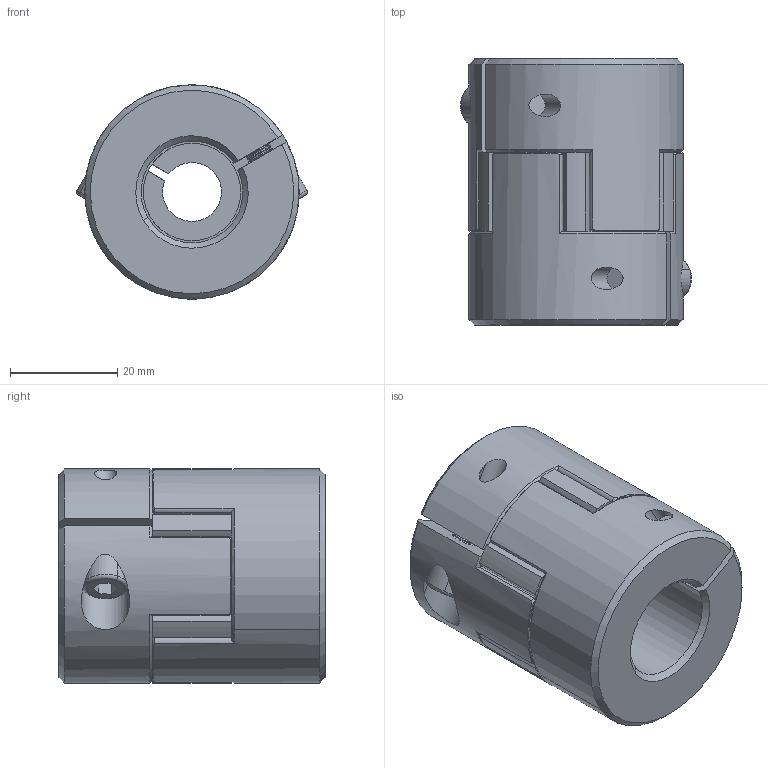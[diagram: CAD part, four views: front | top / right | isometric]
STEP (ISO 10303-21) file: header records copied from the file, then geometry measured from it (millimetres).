
FILE_DESCRIPTION (( 'STEP AP203' ), '1' );
FILE_NAME ('LF-B-D40L50-11-19.STEP', '2021-10-27T05:48:58', ( '' ), ( '' ), 'SwSTEP 2.0', 'SolidWorks 2018', '' );
FILE_SCHEMA (( 'CONFIG_CONTROL_DESIGN' ));
Length unit declared in the file: millimetre
Products named in the file (1): LF-B-D40L50-11-19
Bounding box: 43.11 x 49.7 x 40 mm (x, y, z)
Volume: 50330.4 mm3; surface area: 14630.2 mm2
Topology: 1 solids, 7 shells, 470 faces, 1113 edges, 660 vertices
Faces by surface type: cone 170, cylinder 169, plane 127, torus 4
Entity records: 13932 total; most frequent: CARTESIAN_POINT 2888, DIRECTION 2501, ORIENTED_EDGE 2218, EDGE_CURVE 1109, AXIS2_PLACEMENT_3D 1037, VERTEX_POINT 660, CIRCLE 566, EDGE_LOOP 487
